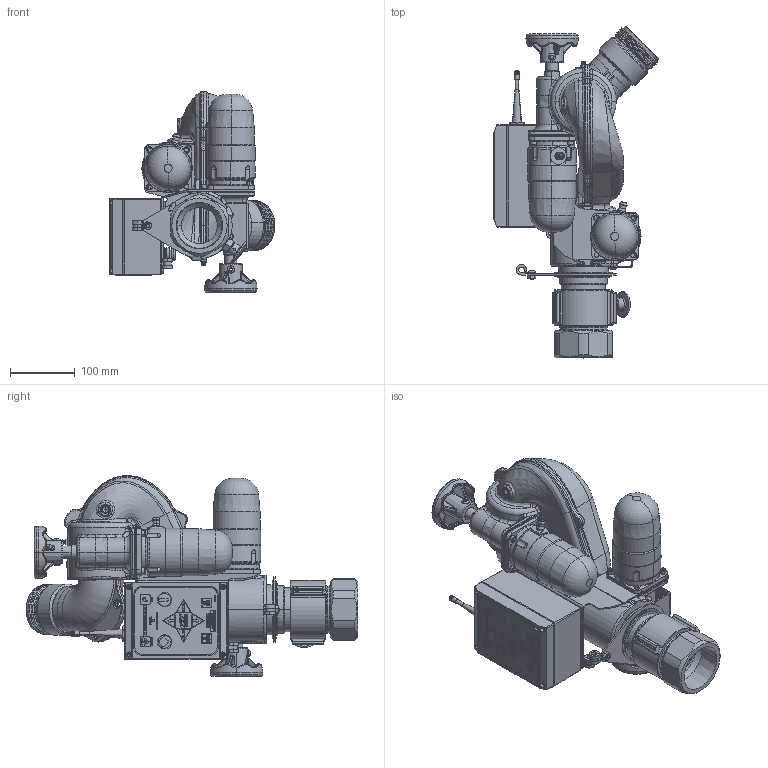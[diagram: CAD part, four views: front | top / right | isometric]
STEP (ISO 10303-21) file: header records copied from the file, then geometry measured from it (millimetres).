
FILE_DESCRIPTION (( 'STEP AP203' ), '1' );
FILE_NAME ('Y2-E22A_45_Up.STEP', '2014-07-03T15:53:44', ( '' ), ( '' ), 'SwSTEP 2.0', 'SolidWorks 2014', '' );
FILE_SCHEMA (( 'CONFIG_CONTROL_DESIGN' ));
Products named in the file (1): Y2-E22A_45_Up
Bounding box: 256.68 x 514.47 x 311.32 mm (x, y, z)
Surface area: 651840.7 mm2 (no closed solid volume)
Topology: 0 solids, 197 shells, 2248 faces, 9836 edges, 7672 vertices
Faces by surface type: plane 714, cylinder 587, bspline 406, torus 273, cone 239, sphere 29
Entity records: 177029 total; most frequent: CARTESIAN_POINT 104161, ORIENTED_EDGE 14166, DIRECTION 13018, EDGE_CURVE 9830, VERTEX_POINT 7669, LINE 4632, VECTOR 4632, AXIS2_PLACEMENT_3D 4193
